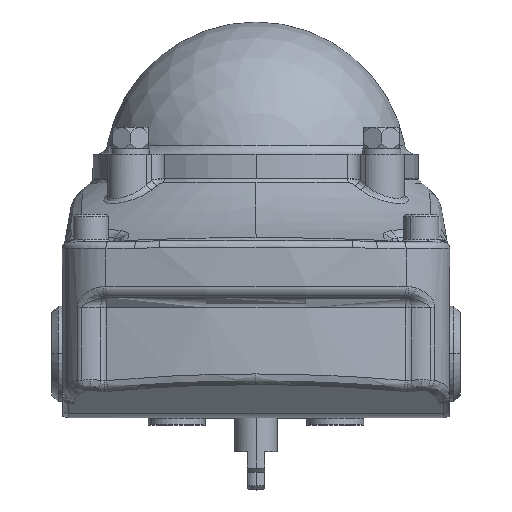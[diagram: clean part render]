
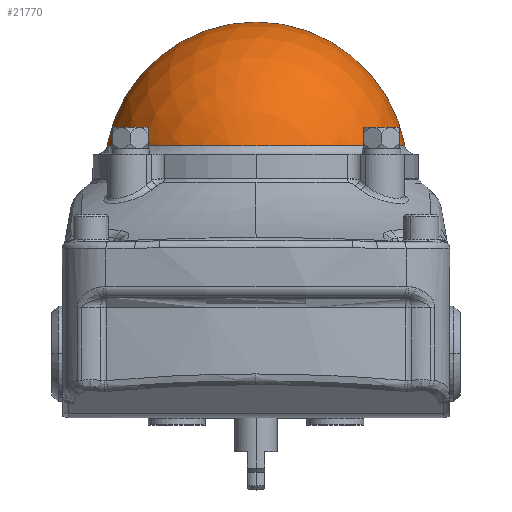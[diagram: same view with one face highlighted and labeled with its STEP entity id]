
A CAD part, top view. The second image highlights one B-rep face of the part: STEP entity #21770.
In plain terms, the highlighted spherical face has radius 33.782 mm.
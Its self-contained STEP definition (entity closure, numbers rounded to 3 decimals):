
#5179 = CIRCLE ( 'NONE', #34545, 33.782 ) ;
#5449 = CIRCLE ( 'NONE', #7593, 33.782 ) ;
#5526 = VERTEX_POINT ( 'NONE', #18580 ) ;
#5761 = CARTESIAN_POINT ( 'NONE',  ( 0., 45.352, -13.538 ) ) ;
#5764 = AXIS2_PLACEMENT_3D ( 'NONE', #5761, #14289, #17280 ) ;
#5798 = DIRECTION ( 'NONE',  ( 0., 0., 1. ) ) ;
#7593 = AXIS2_PLACEMENT_3D ( 'NONE', #19664, #5798, #8489 ) ;
#8489 = DIRECTION ( 'NONE',  ( 1., 0., 0. ) ) ;
#8583 = ORIENTED_EDGE ( 'NONE', *, *, #22197, .T. ) ;
#9287 = DIRECTION ( 'NONE',  ( 0., 0., -1. ) ) ;
#14289 = DIRECTION ( 'NONE',  ( 0., 0., 1. ) ) ;
#15500 = CARTESIAN_POINT ( 'NONE',  ( -33.213, 51.524, -13.538 ) ) ;
#17280 = DIRECTION ( 'NONE',  ( -1., 0., 0. ) ) ;
#18067 = CARTESIAN_POINT ( 'NONE',  ( 0., 79.134, -13.538 ) ) ;
#18580 = CARTESIAN_POINT ( 'NONE',  ( 33.213, 51.524, -13.538 ) ) ;
#19358 = CIRCLE ( 'NONE', #22245, 33.213 ) ;
#19664 = CARTESIAN_POINT ( 'NONE',  ( 0., 45.352, -13.538 ) ) ;
#20604 = DIRECTION ( 'NONE',  ( -1., 0., 0. ) ) ;
#20644 = EDGE_CURVE ( 'NONE', #5526, #28973, #5449, .T. ) ;
#21770 = ADVANCED_FACE ( 'NONE', ( #29162 ), #22999, .T. ) ;
#22197 = EDGE_CURVE ( 'NONE', #30675, #5526, #19358, .T. ) ;
#22245 = AXIS2_PLACEMENT_3D ( 'NONE', #34987, #35204, #29255 ) ;
#22999 = SPHERICAL_SURFACE ( 'NONE', #5764, 33.782 ) ;
#28973 = VERTEX_POINT ( 'NONE', #18067 ) ;
#29069 = CARTESIAN_POINT ( 'NONE',  ( 0., 45.352, -13.538 ) ) ;
#29162 = FACE_OUTER_BOUND ( 'NONE', #29556, .T. ) ;
#29255 = DIRECTION ( 'NONE',  ( 1., 0., 0. ) ) ;
#29556 = EDGE_LOOP ( 'NONE', ( #8583, #35535, #36370 ) ) ;
#30522 = EDGE_CURVE ( 'NONE', #30675, #28973, #5179, .T. ) ;
#30675 = VERTEX_POINT ( 'NONE', #15500 ) ;
#34545 = AXIS2_PLACEMENT_3D ( 'NONE', #29069, #9287, #20604 ) ;
#34987 = CARTESIAN_POINT ( 'NONE',  ( 0., 51.524, -13.538 ) ) ;
#35204 = DIRECTION ( 'NONE',  ( 0., 1., 0. ) ) ;
#35535 = ORIENTED_EDGE ( 'NONE', *, *, #20644, .T. ) ;
#36370 = ORIENTED_EDGE ( 'NONE', *, *, #30522, .F. ) ;
